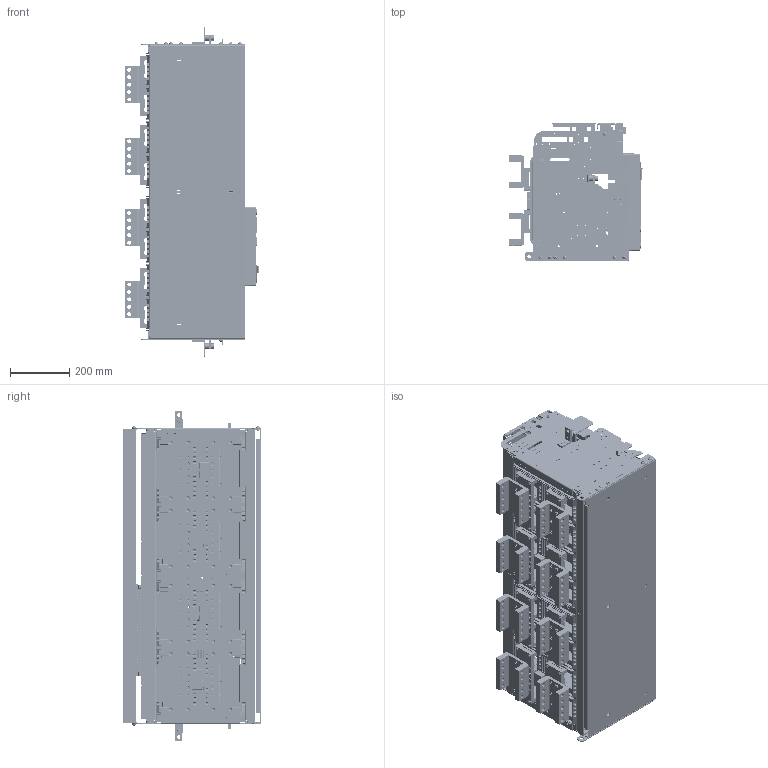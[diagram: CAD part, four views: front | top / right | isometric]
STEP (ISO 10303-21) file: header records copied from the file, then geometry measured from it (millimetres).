
FILE_DESCRIPTION((''),'2;1');
FILE_NAME('HG_25_D404H_ASM_ASM','2019-03-27T',('HHI'),(''),'PRO/ENGINEER BY PARAMETRIC TECHNOLOGY CORPORATION, 2012453','PRO/ENGINEER BY PARAMETRIC TECHNOLOGY CORPORATION, 2012453','');
FILE_SCHEMA(('CONFIG_CONTROL_DESIGN'));
Products named in the file (59): MANIFOLD_SOLID_BREP_20410; MANIFOLD_SOLID_BREP_20630; MAIN_SC-DR-FRAME_L_54_ASM_ASM_ASM; 1AT-00887S02_ASM_7_ASM_ASM_ASM; 3AT-04943_6; ACB_P_PH_SCREW_M6_L12_SW_6; MANIFOLD_SOLID_BREP_47140; MANIFOLD_SOLID_BREP_47360; MAIN_SC-DR-FRAME_R_53_ASM_ASM_ASM; 1AT-00888S02_ASM_7_ASM_ASM_ASM; 3AT-04945_6; CONTROL_JACK_FOR_CRADLE_6; 9239000363_ASM_7_ASM_ASM_ASM; 1AT-00880S08_ASM_7_ASM_ASM_ASM; 3AT-05064_6; 4AT-06870_6; 3AT-05065_ASM_6_ASM_ASM_ASM; 1AT-00752_AF0_6; ACB_HEX_NUT_M6_6; 1AT-01051_ASM_6_ASM_ASM_ASM; 3AT-05066_6; 3AT-05067_ASM_6_ASM_ASM_ASM; 3AT-05062_6; 3AT-05305_4; 3AT-05294_ASM_4_ASM_ASM_ASM; D40H_4; D40H2_4; D404H_ASM_3_ASM_ASM_ASM; SC_CONTROL_JACK_32_1; SC_DR_DEVICE_COVER2_35_1; SC_DR_LOCK_PUSH_BUTTON_35_1; SC_MANUAL_POSITION_LOCK_35_1; SC-DR-INDICATOR_SAMPLE_37_1; DR_COVER_SAMPLE_ASM_36_ASM_1_ASM; MAIN_SC-OCR-COVER-U-DD-RE_36_1; PRT0463; MAIN_SC-OCR-LOWER-COVER-RE_35_1; OCR_COVER_SAMPLE_ASM_36_ASM_1_ASM; N_CHARGE_HANDLE_32_1; COVER403_ASSY_ASM_18_ASM_1_ASM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
Assembly tree (163 placements, depth 6):
  HG_25_D404H_ASM_ASM
    25_D404H_ASM_ASM_ASM
      D404H_ASM_3_ASM_ASM_ASM
        1AT-00887S02_ASM_7_ASM_ASM_ASM
          MAIN_SC-DR-FRAME_L_54_ASM_ASM_ASM
            MANIFOLD_SOLID_BREP_20410
            MANIFOLD_SOLID_BREP_20630
        3AT-04943_6
        ACB_P_PH_SCREW_M6_L12_SW_6  x8
        1AT-00888S02_ASM_7_ASM_ASM_ASM
          MAIN_SC-DR-FRAME_R_53_ASM_ASM_ASM
            MANIFOLD_SOLID_BREP_47140
            MANIFOLD_SOLID_BREP_47360
        1AT-00880S08_ASM_7_ASM_ASM_ASM
          3AT-04945_6
          9239000363_ASM_7_ASM_ASM_ASM
            CONTROL_JACK_FOR_CRADLE_6
        3AT-05065_ASM_6_ASM_ASM_ASM
          3AT-05064_6
          4AT-06870_6  x10
        1AT-01051_ASM_6_ASM_ASM_ASM  x2
          1AT-00752_AF0_6
          ACB_HEX_NUT_M6_6
        3AT-05067_ASM_6_ASM_ASM_ASM
          3AT-05066_6
          4AT-06870_6  x8
        3AT-05062_6  x32
        3AT-05294_ASM_4_ASM_ASM_ASM  x8
          3AT-05305_4
        D40H_4  x4
        D40H2_4  x4
      COVER_634_ASM_1_ASM_2_ASM
        COVER403_ASSY_ASM_18_ASM_1_ASM
          SC_CONTROL_JACK_32_1
          DR_COVER_SAMPLE_ASM_36_ASM_1_ASM
            SC_DR_DEVICE_COVER2_35_1
            SC_DR_LOCK_PUSH_BUTTON_35_1
            SC_MANUAL_POSITION_LOCK_35_1
            SC-DR-INDICATOR_SAMPLE_37_1
          OCR_COVER_SAMPLE_ASM_36_ASM_1_ASM
            MAIN_SC-OCR-COVER-U-DD-RE_36_1
            PRT0463
            MAIN_SC-OCR-LOWER-COVER-RE_35_1
          N_CHARGE_HANDLE_32_1
        PRT0464  x2
        3AT-04830_5_1
      ASM0127_ASM
        PRT0465
        PRT0466
        PRT0467
        PRT0468
      ASM0128_ASM
        PRT0469
        PRT0470
        FIX_BLOCK_CRADLE_6
        BOLT_5
      U_ARC_SHIELD_634_1
    HG_FRONT_COVER_40
    4AT-06477S03
    4AT-06477S04
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Bounding box: 453.03 x 466.35 x 1108.2 mm (x, y, z)
Volume: 15529028.5 mm3; surface area: 7347989.1 mm2
Topology: 181 solids, 181 shells, 21755 faces, 62824 edges, 40901 vertices
Faces by surface type: plane 15264, cylinder 4994, cone 660, torus 301, sphere 272, extrusion 141, bspline 123
Entity records: 540462 total; most frequent: CARTESIAN_POINT 103143, ORIENTED_EDGE 94154, DIRECTION 86251, EDGE_CURVE 47077, VECTOR 38723, LINE 38582, VERTEX_POINT 30819, AXIS2_PLACEMENT_3D 23764
